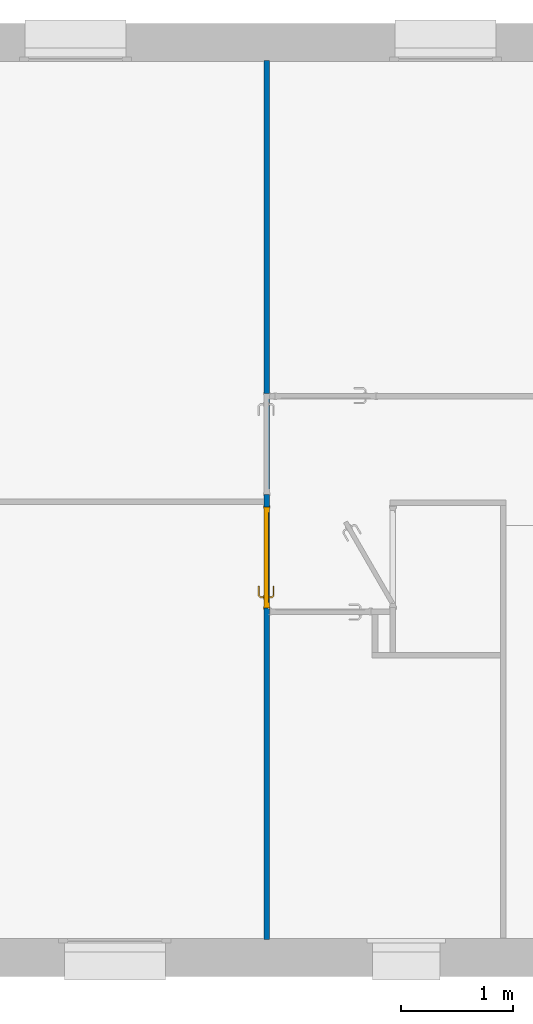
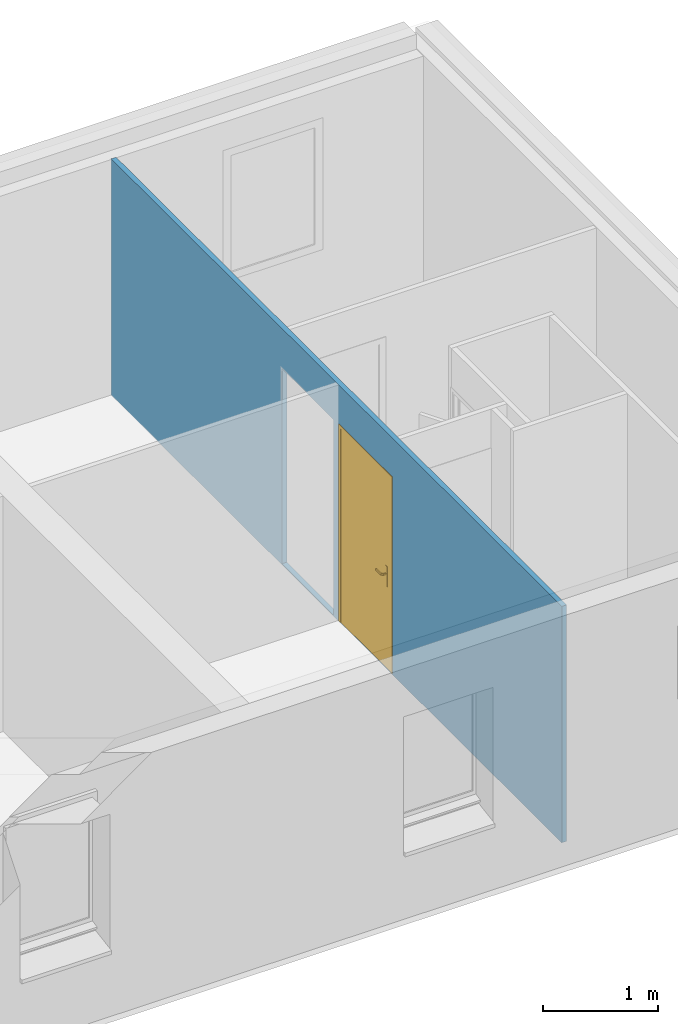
# One storey, part 8 of 13: 1 door, 1 wall, 3 openings.
"""IFC2X3 building model written with IfcOpenShell, lengths in metres."""

from ifc_helpers import new_model, entity, si_unit, converted_unit, derived_unit, direction, frame, frame_2d, origin, place, context, subcontext, project, spatial, rectangle, extrude, faceted_brep, source, transform, mapped, material, material_list, layer, layer_set, layer_usage, type_object, type_shapes, element, fill, save


model = new_model("IFC2X3")

# Units and contexts
model_context = context("Model", 3, precision=1e-05, world=origin(), true_north=direction((6.12303176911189e-17, 1.0)))
body_context = subcontext(model_context, "Body", "Model", "MODEL_VIEW")
ifc_project = project(units=[si_unit("LENGTHUNIT", "METRE"), si_unit("AREAUNIT", "SQUARE_METRE"), si_unit("VOLUMEUNIT", "CUBIC_METRE"), converted_unit("PLANEANGLEUNIT", "DEGREE", entity("IfcRatioMeasure", 0.0174532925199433), si_unit("PLANEANGLEUNIT", "RADIAN"), dimensions=[0, 0, 0, 0, 0, 0, 0]), si_unit("MASSUNIT", "GRAM", prefix="KILO"), si_unit("TIMEUNIT", "SECOND"), si_unit("FREQUENCYUNIT", "HERTZ"), si_unit("THERMODYNAMICTEMPERATUREUNIT", "DEGREE_CELSIUS"), derived_unit("THERMALTRANSMITTANCEUNIT", [(si_unit("MASSUNIT", "GRAM", prefix="KILO"), 1), (si_unit("THERMODYNAMICTEMPERATUREUNIT", "KELVIN"), -1), (si_unit("TIMEUNIT", "SECOND"), -3)]), derived_unit("VOLUMETRICFLOWRATEUNIT", [(si_unit("LENGTHUNIT", "METRE"), 3), (si_unit("TIMEUNIT", "SECOND"), -1)]), si_unit("ELECTRICCURRENTUNIT", "AMPERE"), si_unit("ELECTRICVOLTAGEUNIT", "VOLT"), si_unit("POWERUNIT", "WATT"), si_unit("FORCEUNIT", "NEWTON", prefix="KILO"), si_unit("ILLUMINANCEUNIT", "LUX"), si_unit("LUMINOUSFLUXUNIT", "LUMEN"), si_unit("LUMINOUSINTENSITYUNIT", "CANDELA"), derived_unit("USERDEFINED", [(si_unit("MASSUNIT", "GRAM", prefix="KILO"), -1), (si_unit("LENGTHUNIT", "METRE"), -2), (si_unit("TIMEUNIT", "SECOND"), 3), (si_unit("LUMINOUSFLUXUNIT", "LUMEN"), 1)]), derived_unit("LINEARVELOCITYUNIT", [(si_unit("LENGTHUNIT", "METRE"), 1), (si_unit("TIMEUNIT", "SECOND"), -1)]), si_unit("PRESSUREUNIT", "PASCAL"), derived_unit("USERDEFINED", [(si_unit("LENGTHUNIT", "METRE"), -2), (si_unit("MASSUNIT", "GRAM", prefix="KILO"), 1), (si_unit("TIMEUNIT", "SECOND"), -2)])], contexts=[model_context])

# Site, building, storey
site_placement = place(None, origin())
site = spatial("IfcSite", under=ifc_project, at=site_placement, Name="Surface", CompositionType="ELEMENT")
building_placement = place(site_placement, origin())
building = spatial("IfcBuilding", under=site, at=building_placement, CompositionType="ELEMENT")
storey_placement = place(building_placement, frame((0.0, 0.0, 2.74)))
storey = spatial("IfcBuildingStorey", under=building, at=storey_placement, Name="Plan étage", CompositionType="ELEMENT", Elevation=2.74)

# Wall, openings, door
ifc_material_1 = material(Name="Maçonnerie - Isolant(1)")
ifc_layer = layer(ifc_material_1, 0.05)
ifc_layer_set = layer_set([ifc_layer], Name="Mur de base:Int. plâtre 50 mm")
ifc_layer_usage = layer_usage(ifc_layer_set, "AXIS2", "NEGATIVE", 0.025)
wall_type = type_object("IfcWallType", Name="Mur de base:Int. plâtre 50 mm", PredefinedType="STANDARD", material=ifc_layer_set)
wall_placement = place(storey_placement, frame((-1.68108881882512, 5.35425578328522, -0.00999999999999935), z_axis=(0.0, 0.0, 1.0), x_axis=(0.0, -1.0, 0.0)))
wall = element("IfcWallStandardCase", 1, at=wall_placement, inside=storey, type_object=wall_type, material=ifc_layer_usage, Name="Mur de base:Int. plâtre 50 mm", ObjectType="Mur de base:Int. plâtre 50 mm", context=body_context, shape_type="SweptSolid", body=[
    extrude(rectangle(XDim=7.84000000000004, YDim=0.05, at=frame_2d((3.92000000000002, 0.0), x_axis=(-1.0, 0.0))), origin(), (0.0, 0.0, 1.0), 2.51),
])
opening_1_placement = place(wall_placement, origin())
element("IfcOpeningElement", 2, at=opening_1_placement, cuts=wall, Name="Mur de base:Int. plâtre 50 mm", ObjectType="Opening", context=body_context, shape_type="SweptSolid", body=[
    extrude(rectangle(XDim=2.075, YDim=0.05, at=frame_2d((0.0, 3.33066907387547e-16), x_axis=(0.0, 1.0))), frame((4.915, 0.0274999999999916, 1.0475), z_axis=(0.0, 1.0, 0.0), x_axis=(1.0, 0.0, 0.0)), (0.0, 0.0, 1.0), 0.9),
])
opening_2_placement = place(wall_placement, frame((4.8825, 0.025, 0.00999999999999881)))
opening_2 = element("IfcOpeningElement", 3, at=opening_2_placement, cuts=wall, Name="Int. Simple:PP (0.83m x 2.04m):1", ObjectType="Opening", context=body_context, shape_type="SweptSolid", body=[
    extrude(rectangle(XDim=2.075, YDim=0.9, at=frame_2d((1.0375, 0.45), x_axis=(1.0, 0.0))), frame((0.0, 0.0, 0.0), z_axis=(0.0, -1.0, 0.0), x_axis=(0.0, 0.0, 1.0)), (0.0, 0.0, 1.0), 0.05),
])
opening_3_placement = place(wall_placement, frame((3.87, 0.025, 0.00999999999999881)))
element("IfcOpeningElement", 4, at=opening_3_placement, cuts=wall, Name="Int. Simple:PP (0.83m x 2.04m):1", ObjectType="Opening", context=body_context, shape_type="SweptSolid", body=[
    extrude(rectangle(XDim=2.075, YDim=0.9, at=frame_2d((1.0375, 0.45), x_axis=(1.0, 0.0))), frame((0.0, 0.0, 0.0), z_axis=(0.0, -1.0, 0.0), x_axis=(0.0, 0.0, 1.0)), (0.0, 0.0, 1.0), 0.05),
])
ifc_material_2 = material(Name="Finition Peinture - Blanc satiné")
ifc_material_3 = material(Name="Bois - Panneau de porte")
ifc_material_4 = material(Name="Bois - Cadre de porte")
ifc_material_list_1 = material_list([ifc_material_2, ifc_material_3, ifc_material_4])
ifc_material_list_2 = material_list([ifc_material_2, ifc_material_3, ifc_material_4])
door_style = type_object("IfcDoorStyle", Name="PP (0.83m x 2.04m)", ConstructionType="NOTDEFINED", OperationType="SINGLE_SWING_RIGHT", ParameterTakesPrecedence=False, Sizeable=False, material=ifc_material_list_2)
shared_shape = source(origin(), body_context, "Body", "Brep", [
    faceted_brep([(0.895000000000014, -0.00500000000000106, 0.870000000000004), (0.895000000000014, -0.00500000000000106, 1.08), (0.885352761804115, -0.00500000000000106, 1.08399601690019), (0.875000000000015, -0.00500000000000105, 1.08535898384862), (0.864647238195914, -0.00500000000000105, 1.08399601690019), (0.855000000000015, -0.00500000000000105, 1.08), (0.855000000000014, -0.00500000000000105, 0.870000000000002), (0.864647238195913, -0.00500000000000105, 0.866003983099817), (0.875000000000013, -0.00500000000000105, 0.86464101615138), (0.885352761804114, -0.00500000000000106, 0.866003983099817), (0.895000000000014, 0.0, 1.08), (0.895000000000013, 0.0, 0.870000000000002), (0.885352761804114, 0.0, 0.866003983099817), (0.875000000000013, 0.0, 0.86464101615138), (0.864647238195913, 0.0, 0.866003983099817), (0.855000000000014, 0.0, 0.870000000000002), (0.855000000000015, 0.0, 1.08), (0.864647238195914, 0.0, 1.08399601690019), (0.875000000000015, 0.0, 1.08535898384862), (0.885352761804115, 0.0, 1.08399601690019)], [[[0, 1, 2, 3, 4, 5, 6, 7, 8, 9]], [[10, 11, 12, 13, 14, 15, 16, 17, 18, 19]], [[9, 12, 11, 0]], [[8, 13, 12, 9]], [[7, 14, 13, 8]], [[7, 6, 15, 14]], [[15, 6, 5, 16]], [[4, 17, 16, 5]], [[3, 18, 17, 4]], [[2, 19, 18, 3]], [[2, 1, 10, 19]], [[11, 10, 1, 0]]]),
    faceted_brep([(0.895000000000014, 0.0399999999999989, 0.870000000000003), (0.895000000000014, 0.0399999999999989, 1.08), (0.885352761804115, 0.0399999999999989, 1.08399601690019), (0.875000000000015, 0.0399999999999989, 1.08535898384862), (0.864647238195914, 0.0399999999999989, 1.08399601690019), (0.855000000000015, 0.0399999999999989, 1.08), (0.855000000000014, 0.0399999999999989, 0.870000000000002), (0.864647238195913, 0.0399999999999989, 0.866003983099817), (0.875000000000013, 0.0399999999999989, 0.86464101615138), (0.885352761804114, 0.0399999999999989, 0.866003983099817), (0.875000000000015, 0.0449999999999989, 1.08535898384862), (0.885352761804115, 0.0449999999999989, 1.08399601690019), (0.895000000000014, 0.0449999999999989, 1.08), (0.895000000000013, 0.0449999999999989, 0.870000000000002), (0.885352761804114, 0.0449999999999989, 0.866003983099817), (0.875000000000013, 0.0449999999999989, 0.86464101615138), (0.864647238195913, 0.0449999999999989, 0.866003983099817), (0.855000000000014, 0.0449999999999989, 0.870000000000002), (0.855000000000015, 0.0449999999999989, 1.08), (0.864647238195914, 0.0449999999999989, 1.08399601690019)], [[[0, 1, 2, 3, 4, 5, 6, 7, 8, 9]], [[10, 11, 12, 13, 14, 15, 16, 17, 18, 19]], [[4, 19, 18, 5]], [[3, 10, 19, 4]], [[2, 11, 10, 3]], [[2, 1, 12, 11]], [[13, 12, 1, 0]], [[9, 14, 13, 0]], [[8, 15, 14, 9]], [[7, 16, 15, 8]], [[7, 6, 17, 16]], [[17, 6, 5, 18]]]),
    faceted_brep([(0.872974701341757, -0.0050000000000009, 1.00778044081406), (0.877025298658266, -0.00500000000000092, 1.00778044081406), (0.881000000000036, -0.00500000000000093, 1.00699999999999), (0.881000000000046, -0.00500000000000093, 0.992999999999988), (0.877025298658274, -0.00500000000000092, 0.99221955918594), (0.872974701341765, -0.0050000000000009, 0.992219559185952), (0.868999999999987, -0.00500000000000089, 0.993000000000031), (0.868999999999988, -0.00500000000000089, 1.007), (0.877025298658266, -0.0310045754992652, 1.00778044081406), (0.881000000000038, -0.0326509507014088, 1.007), (0.872974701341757, -0.0293267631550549, 1.00778044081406), (0.859298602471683, -0.0430028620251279, 1.00778044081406), (0.860976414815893, -0.0470534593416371, 1.00778044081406), (0.868999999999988, -0.0276803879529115, 1.007), (0.868999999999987, -0.0276803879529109, 0.993000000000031), (0.872974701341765, -0.0293267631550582, 0.992219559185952), (0.877025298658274, -0.0310045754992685, 0.99221955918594), (0.860976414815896, -0.047053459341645, 0.99221955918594), (0.859298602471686, -0.0430028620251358, 0.992219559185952), (0.881000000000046, -0.0326509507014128, 0.992999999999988), (0.862622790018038, -0.0510281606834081, 1.007), (0.85765222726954, -0.0390281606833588, 1.007), (0.857652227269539, -0.0390281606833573, 0.993000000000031), (0.862622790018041, -0.0510281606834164, 0.992999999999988), (0.774981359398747, -0.0510281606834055, 1.007), (0.774981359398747, -0.0470534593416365, 1.00778044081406), (0.774981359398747, -0.0430028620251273, 1.00778044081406), (0.774981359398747, -0.0390281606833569, 1.00699999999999), (0.774981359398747, -0.0390281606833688, 0.993000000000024), (0.774981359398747, -0.0430028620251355, 0.992219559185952), (0.774981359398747, -0.0470534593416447, 0.99221955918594), (0.774981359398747, -0.0510281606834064, 0.992999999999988), (0.81713998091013, -0.045028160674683, 1.0078786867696), (0.822692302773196, -0.051028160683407, 1.007), (0.816316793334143, -0.039028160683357, 1.007), (0.816316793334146, -0.0390281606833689, 0.993000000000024), (0.817139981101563, -0.0450281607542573, 0.992121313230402), (0.822692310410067, -0.0510281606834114, 0.992999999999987)], [[[0, 1, 2, 3, 4, 5, 6, 7]], [[2, 1, 8, 9]], [[1, 0, 10, 11, 12, 8]], [[0, 7, 13, 10]], [[14, 13, 7, 6]], [[5, 15, 14, 6]], [[5, 4, 16, 17, 18, 15]], [[3, 19, 16, 4]], [[9, 19, 3, 2]], [[9, 8, 12, 20]], [[10, 13, 21, 11]], [[22, 21, 13, 14]], [[14, 15, 18, 22]], [[16, 19, 23, 17]], [[20, 23, 19, 9]], [[24, 25, 26, 27, 28, 29, 30, 31]], [[32, 25, 33]], [[33, 25, 24]], [[33, 20, 12]], [[11, 34, 32]], [[34, 11, 21]], [[27, 26, 34]], [[32, 26, 25]], [[32, 34, 26]], [[32, 33, 12]], [[11, 32, 12]], [[21, 22, 35, 28, 27, 34]], [[36, 29, 35]], [[30, 36, 37]], [[18, 35, 22]], [[29, 28, 35]], [[30, 37, 31]], [[37, 17, 23]], [[36, 17, 37]], [[36, 18, 17]], [[36, 35, 18]], [[29, 36, 30]], [[23, 20, 33, 24, 31, 37]]]),
    faceted_brep([(0.872974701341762, 0.0449999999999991, 0.992219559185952), (0.877025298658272, 0.0449999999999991, 0.99221955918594), (0.881000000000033, 0.044999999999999, 0.992999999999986), (0.881000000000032, 0.044999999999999, 1.007), (0.877025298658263, 0.0449999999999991, 1.00778044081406), (0.872974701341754, 0.0449999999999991, 1.00778044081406), (0.868999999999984, 0.0449999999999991, 1.007), (0.868999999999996, 0.0449999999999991, 0.993000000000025), (0.868999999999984, 0.067485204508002, 1.007), (0.868999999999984, 0.0674852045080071, 0.993000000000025), (0.872974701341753, 0.0691315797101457, 1.00778044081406), (0.877025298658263, 0.070809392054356, 1.00778044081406), (0.860838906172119, 0.0869957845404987, 1.00778044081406), (0.859161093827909, 0.0829451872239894, 1.00778044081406), (0.881000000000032, 0.0724557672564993, 1.007), (0.881000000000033, 0.0724557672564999, 0.992999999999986), (0.877025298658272, 0.0708093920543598, 0.99221955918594), (0.872974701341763, 0.0691315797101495, 0.992219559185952), (0.859161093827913, 0.0829451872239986, 0.992219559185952), (0.860838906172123, 0.0869957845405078, 0.99221955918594), (0.857514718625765, 0.0789704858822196, 1.007), (0.857514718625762, 0.0789704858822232, 0.993000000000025), (0.862485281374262, 0.0909704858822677, 1.007), (0.862485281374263, 0.0909704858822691, 0.992999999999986), (0.77495421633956, 0.0829451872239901, 1.00778044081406), (0.77495421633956, 0.0869957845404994, 1.00778044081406), (0.77495421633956, 0.0909704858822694, 1.007), (0.77495421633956, 0.0909704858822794, 0.992999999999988), (0.77495421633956, 0.086995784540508, 0.99221955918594), (0.77495421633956, 0.0829451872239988, 0.992219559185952), (0.77495421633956, 0.0789704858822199, 0.993000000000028), (0.77495421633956, 0.0789704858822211, 1.007), (0.816234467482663, 0.0789704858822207, 1.007), (0.816234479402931, 0.0789704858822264, 0.993000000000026), (0.817057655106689, 0.0849704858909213, 1.0078786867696), (0.822554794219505, 0.0909704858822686, 1.007), (0.822554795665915, 0.0909704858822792, 0.992999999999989), (0.817057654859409, 0.0849704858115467, 0.992121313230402)], [[[0, 1, 2, 3, 4, 5, 6, 7]], [[8, 9, 7, 6]], [[5, 10, 8, 6]], [[5, 4, 11, 12, 13, 10]], [[3, 14, 11, 4]], [[14, 3, 2, 15]], [[2, 1, 16, 15]], [[1, 0, 17, 18, 19, 16]], [[0, 7, 9, 17]], [[20, 21, 9, 8]], [[8, 10, 13, 20]], [[14, 22, 12, 11]], [[23, 22, 14, 15]], [[15, 16, 19, 23]], [[17, 9, 21, 18]], [[24, 25, 26, 27, 28, 29, 30, 31]], [[21, 20, 32, 31, 30, 33]], [[34, 24, 32]], [[25, 34, 35]], [[13, 32, 20]], [[24, 31, 32]], [[25, 35, 26]], [[35, 12, 22]], [[34, 12, 35]], [[34, 13, 12]], [[34, 32, 13]], [[24, 34, 25]], [[22, 23, 36, 27, 26, 35]], [[37, 28, 36]], [[36, 28, 27]], [[36, 23, 19]], [[18, 33, 37]], [[33, 18, 21]], [[30, 29, 33]], [[37, 29, 28]], [[37, 33, 29]], [[37, 36, 19]], [[18, 37, 19]]]),
    faceted_brep([(0.935000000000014, 0.04, 2.04), (0.935000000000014, 0.04, 0.0), (0.105000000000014, 0.04, 0.0), (0.105000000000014, 0.04, 2.04), (0.935000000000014, 0.0, 2.04), (0.105000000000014, 0.0, 2.04), (0.105000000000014, 0.0, 0.0), (0.935000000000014, 0.0, 0.0)], [[[0, 1, 2, 3]], [[4, 5, 6, 7]], [[3, 5, 4, 0]], [[2, 6, 5, 3]], [[1, 7, 6, 2]], [[0, 4, 7, 1]]]),
    faceted_brep([(0.970000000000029, 0.0, 0.0), (0.935000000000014, 0.0, 0.0), (0.935000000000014, 0.040000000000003, 0.0), (0.920000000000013, 0.040000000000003, 0.0), (0.920000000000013, 0.050000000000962, 0.0), (0.970000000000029, 0.050000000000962, 0.0), (0.970000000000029, 0.050000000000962, 2.07500000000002), (0.970000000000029, 0.0, 2.07500000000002), (0.920000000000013, 0.050000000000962, 2.025), (0.120000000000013, 0.050000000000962, 2.025), (0.120000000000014, 0.050000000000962, 0.0), (0.0699999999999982, 0.050000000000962, 0.0), (0.0699999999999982, 0.050000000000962, 2.07500000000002), (0.920000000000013, 0.040000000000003, 2.025), (0.935000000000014, 0.040000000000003, 2.04), (0.105000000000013, 0.040000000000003, 2.04), (0.105000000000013, 0.040000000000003, 0.0), (0.120000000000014, 0.040000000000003, 0.0), (0.120000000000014, 0.040000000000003, 2.025), (0.935000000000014, 0.0, 2.04), (0.069999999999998, 0.0, 2.07500000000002), (0.0699999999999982, 0.0, 0.0), (0.105000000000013, 0.0, 0.0), (0.105000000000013, 0.0, 2.04)], [[[0, 1, 2, 3, 4, 5]], [[5, 6, 7, 0]], [[4, 8, 9, 10, 11, 12, 6, 5]], [[3, 13, 8, 4]], [[2, 14, 15, 16, 17, 18, 13, 3]], [[1, 19, 14, 2]], [[0, 7, 20, 21, 22, 23, 19, 1]], [[12, 11, 21, 20]], [[21, 11, 10, 17, 16, 22]], [[18, 17, 10, 9]], [[23, 22, 16, 15]], [[6, 12, 20, 7]], [[13, 18, 9, 8]], [[19, 23, 15, 14]]]),
    faceted_brep([(0.955000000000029, 0.050000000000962, 0.0), (0.955000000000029, 0.055000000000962, 0.0), (0.985000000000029, 0.055000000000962, 0.0), (0.985000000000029, 0.050000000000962, 0.0), (0.985000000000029, 0.050000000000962, 2.09000000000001), (0.0550000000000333, 0.050000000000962, 2.09000000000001), (0.0550000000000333, 0.050000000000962, 0.0), (0.0850000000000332, 0.050000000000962, 0.0), (0.0850000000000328, 0.050000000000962, 2.06000000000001), (0.955000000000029, 0.050000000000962, 2.06000000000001), (0.985000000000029, 0.055000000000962, 2.09000000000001), (0.955000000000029, 0.055000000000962, 2.06000000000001), (0.0850000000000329, 0.055000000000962, 2.06000000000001), (0.0850000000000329, 0.055000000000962, 0.0), (0.055000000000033, 0.055000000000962, 0.0), (0.0550000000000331, 0.055000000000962, 2.09000000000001)], [[[0, 1, 2, 3]], [[3, 4, 5, 6, 7, 8, 9, 0]], [[2, 10, 4, 3]], [[1, 11, 12, 13, 14, 15, 10, 2]], [[0, 9, 11, 1]], [[7, 6, 14, 13]], [[8, 7, 13, 12]], [[15, 14, 6, 5]], [[10, 15, 5, 4]], [[9, 8, 12, 11]]]),
    faceted_brep([(0.985000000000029, -0.005, 0.0), (0.985000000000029, -0.005, 2.09000000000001), (0.0550000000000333, -0.005, 2.09000000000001), (0.0550000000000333, -0.005, 0.0), (0.0850000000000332, -0.005, 0.0), (0.0850000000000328, -0.005, 2.06000000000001), (0.955000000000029, -0.005, 2.06000000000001), (0.955000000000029, -0.005, 0.0), (0.985000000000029, 0.0, 0.0), (0.985000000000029, 0.0, 2.09000000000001), (0.955000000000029, 0.0, 0.0), (0.955000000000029, 0.0, 2.06000000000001), (0.0850000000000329, 0.0, 2.06000000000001), (0.0850000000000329, 0.0, 0.0), (0.055000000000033, 0.0, 0.0), (0.0550000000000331, 0.0, 2.09000000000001)], [[[0, 1, 2, 3, 4, 5, 6, 7]], [[8, 9, 1, 0]], [[10, 11, 12, 13, 14, 15, 9, 8]], [[7, 6, 11, 10]], [[5, 4, 13, 12]], [[15, 14, 3, 2]], [[9, 15, 2, 1]], [[6, 5, 12, 11]], [[4, 3, 14, 13]], [[7, 10, 8, 0]]]),
])
type_shapes(door_style, [shared_shape])
door_placement = place(opening_2_placement, frame((-0.970000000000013, -0.0499999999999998, 0.0)))
door = element("IfcDoor", 5, at=door_placement, inside=storey, type_object=door_style, material=ifc_material_list_1, Name="Int. Simple:PP (0.83m x 2.04m)", ObjectType="PP (0.83m x 2.04m)", OverallHeight=2.075, OverallWidth=0.9, context=body_context, shape_type="MappedRepresentation", body=[
    mapped(shared_shape, transform((0.0, 0.0, 0.0), scale=1.0)),
])
fill(opening_2, door)

save(model, "model.ifc")
